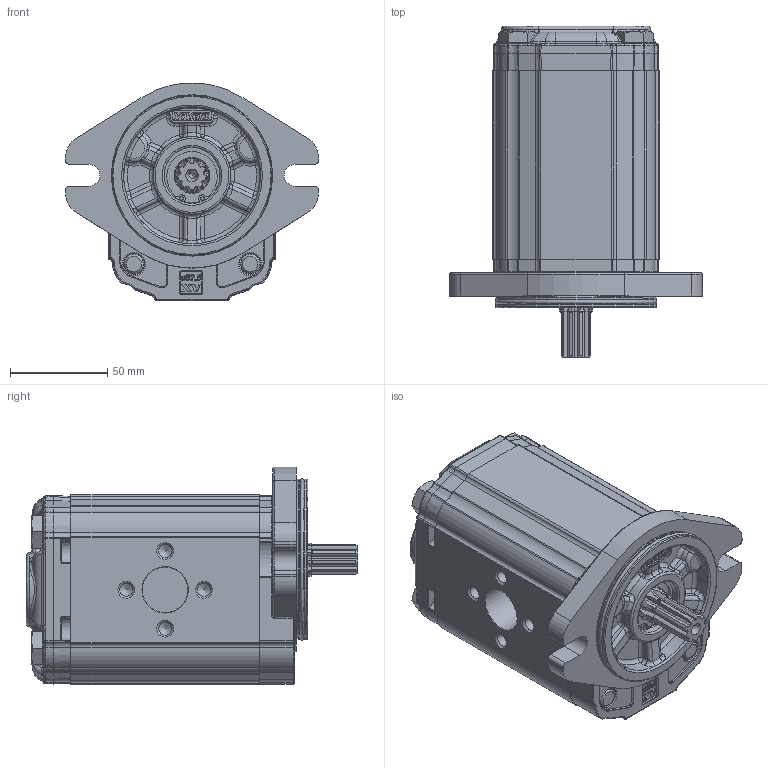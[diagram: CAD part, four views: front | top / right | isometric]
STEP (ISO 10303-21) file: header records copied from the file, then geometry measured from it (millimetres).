
FILE_DESCRIPTION(/* description */ ('Unknown'),/* implementation_level */ '2;1');
FILE_NAME(/* name */ 'X2U6151IQPA',/* time_stamp */ '2021-04-26T09:05:32+02:00',/* author */ ('Unknown'),/* organization */ ('Unknown'),/* preprocessor_version */ 'ST-DEVELOPER v16.7',/* originating_system */ 'Solid Edge',/* authorisation */ 'Unknown');
FILE_SCHEMA (('AUTOMOTIVE_DESIGN {1 0 10303 214 3 1 1}'));
Products named in the file (5): X2U6151IQPA; X2U51; 2I; X2QPH97; XU219-A
Assembly tree (4 placements, depth 2):
  X2U6151IQPA
    X2U51
    2I
    X2QPH97
    XU219-A
Bounding box: 130.38 x 170.7 x 112.3 mm (x, y, z)
Volume: 1012689.9 mm3; surface area: 135281.3 mm2
Topology: 4 solids, 5 shells, 2230 faces, 5510 edges, 3347 vertices
Faces by surface type: cylinder 660, plane 592, bspline 537, torus 286, cone 117, sphere 38
Full cylindrical faces by diameter (mm): 2 x2, 6.647 x8, 10 x4, 10.5 x4, 11 x2, 11.5 x4, 16 x4, 17.42 x1, 18 x1, 20 x1, 20.595 x1, 23.332 x1, 23.5 x1, 25.834 x1, 28.5 x1, 28.56 x1, 28.57 x1, 28.8 x1, 30.4 x1, 79.6 x2, 82.5 x2
Entity records: 93010 total; most frequent: CARTESIAN_POINT 30285, ORIENTED_EDGE 10556, DIRECTION 8965, EDGE_CURVE 5278, AXIS2_PLACEMENT_3D 3437, VERTEX_POINT 3273, FACE_BOUND 2461, EDGE_LOOP 2452
